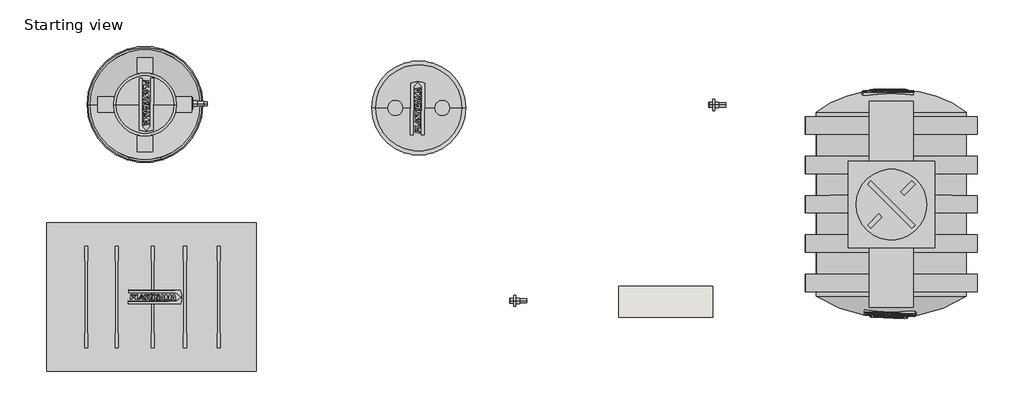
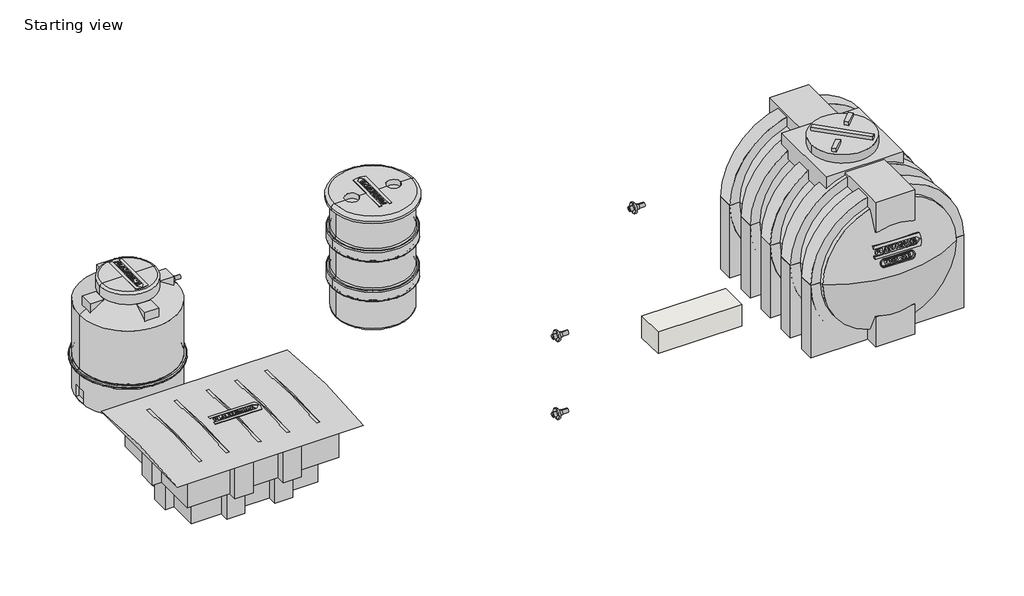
# One storey, incomplete: 9 pipe fittings, 1 wall.
"""IFC4 building model written with IfcOpenShell, lengths in millimetres."""

from ifc_helpers import new_model, si_unit, origin, origin_with_axes, place, context, project, spatial, polyline, outline, extrude, transform, mapped, element, save
from components import var_b17b46ca, var_d6a1bb93, var_17c6ac72, var_815d262b, var_8224f5ad, var_dd11a43b

model = new_model("IFC4")

# Units and contexts
model_context = context("Model", 3, world=origin())
ifc_project = project(units=[si_unit("LENGTHUNIT", "METRE", prefix="MILLI")], contexts=[model_context])

# Site, building, storey
site = spatial("IfcSite", under=ifc_project)
building = spatial("IfcBuilding", under=site)
storey = spatial("IfcBuildingStorey", under=building, Name="Starting view", Elevation=0.0)

# Pipe fittings
placement = place(None, origin())
var_shape = var_b17b46ca(model_context)
element("IfcPipeFitting", 1, ObjectType="PlastigamaWavin_Unionesdetubería_Tanque55Galones : Var.", at=placement, inside=storey, context=model_context, shape_type="MappedRepresentation", body=[
    mapped(var_shape, transform((3266.5028031, 3209.6008507, 0.0), x_axis=(1.0, 0.0, 0.0), y_axis=(0.0, 1.0, 0.0), z_axis=(0.0, 0.0, 1.0))),
])
var_2_shape = var_d6a1bb93(model_context)
element("IfcPipeFitting", 2, ObjectType="PlastigamaWavin_Unionesdetubería_TanqueRectangular : Var.", at=placement, inside=storey, context=model_context, shape_type="MappedRepresentation", body=[
    mapped(var_2_shape, transform((1559.7417452, 2166.9143358, 0.0), x_axis=(1.0, 0.0, 0.0), y_axis=(0.0, 1.0, 0.0), z_axis=(0.0, 0.0, 1.0))),
])
var_3_shape = var_17c6ac72(model_context)
element("IfcPipeFitting", 3, ObjectType="PlastigamaWavin_Unionesdetubería_LineaDoradaZNoUsarAdaptadorTanque(Nested) : Var.", at=placement, inside=storey, context=model_context, shape_type="MappedRepresentation", body=[
    mapped(var_3_shape, transform((3878.1247542, 1978.6868305, 305.8153356), x_axis=(0.0, 1.0, 0.0), y_axis=(0.0, 0.0, 1.0), z_axis=(1.0, 0.0, 0.0))),
])
element("IfcPipeFitting", 4, ObjectType="PlastigamaWavin_Unionesdetubería_LineaDoradaZNoUsarAdaptadorTanque(Nested) : Var.", at=placement, inside=storey, context=model_context, shape_type="MappedRepresentation", body=[
    mapped(var_3_shape, transform((3878.1247542, 1978.6868305, -286.478), x_axis=(0.0, 1.0, 0.0), y_axis=(0.0, 0.0, 1.0), z_axis=(1.0, 0.0, 0.0))),
])
element("IfcPipeFitting", 5, ObjectType="PlastigamaWavin_Unionesdetubería_LineaDoradaZNoUsarAdaptadorTanque(Nested) : Var.", at=placement, inside=storey, context=model_context, shape_type="MappedRepresentation", body=[
    mapped(var_3_shape, transform((1838.9854911, 3236.5173113, 55.1), x_axis=(0.0, 1.0, 0.0), y_axis=(0.0, 0.0, 1.0), z_axis=(1.0, 0.0, 0.0))),
])
element("IfcPipeFitting", 6, ObjectType="PlastigamaWavin_Unionesdetubería_LineaDoradaZNoUsarAdaptadorTanque(Nested) : Var.", at=placement, inside=storey, context=model_context, shape_type="MappedRepresentation", body=[
    mapped(var_3_shape, transform((1818.9854911, 3236.7673113, 686.0894122), x_axis=(0.0, 1.0, 0.0), y_axis=(0.0, 0.0, 1.0), z_axis=(1.0, 0.0, 0.0))),
])
element("IfcPipeFitting", 7, ObjectType="PlastigamaWavin_Unionesdetubería_LineaDoradaZNoUsarAdaptadorTanque(Nested) : Var.", at=placement, inside=storey, context=model_context, shape_type="MappedRepresentation", body=[
    mapped(var_3_shape, transform((5149.361127, 3228.7026214, 74.5166667), x_axis=(0.0, -1.0, 0.0), y_axis=(0.0, 0.0, -1.0), z_axis=(1.0, 0.0, 0.0))),
])
var_4_shape = var_815d262b(model_context)
element("IfcPipeFitting", 8, ObjectType="PlastigamaWavin_Unionesdetubería_TanqueBotella : Var.", at=placement, inside=storey, context=model_context, shape_type="MappedRepresentation", body=[
    mapped(var_4_shape, transform((1518.9854911, 3230.9937551, 0.0), x_axis=(1.0, 0.0, 0.0), y_axis=(0.0, 1.0, 0.0), z_axis=(0.0, 0.0, 1.0))),
])
var_5_shape = var_8224f5ad(model_context)
var_6_shape = var_dd11a43b(model_context)
element("IfcPipeFitting", 9, ObjectType="PlastigamaWavin_Unionesdetubería_ZNoUsarTanque1200L : Var.", at=placement, inside=storey, context=model_context, shape_type="MappedRepresentation", body=[
    mapped(var_5_shape, transform((6282.6720083, 2037.5917758, 0.0), x_axis=(1.0, 0.0, 0.0), y_axis=(0.0, 1.0, 0.0), z_axis=(0.0, 0.0, 1.0))),
    mapped(var_6_shape, transform((6282.6720083, 2037.5917758, 0.0), x_axis=(1.0, 0.0, 0.0), y_axis=(0.0, 1.0, 0.0), z_axis=(0.0, 0.0, 1.0))),
])

# Wall
element("IfcWall", 10, ObjectType="Wall 1", at=placement, inside=storey, context=model_context, shape_type="SweptSolid", body=[
    extrude(outline(polyline([(5142.6720083, 1872.6117758), (4542.6720083, 1872.6117758), (4542.6720083, 2072.6117758), (5142.6720083, 2072.6117758), (5142.6720083, 1872.6117758)])), origin_with_axes(), (0.0, 0.0, 1.0), 164.7293796),
])

save(model, "model.ifc")
